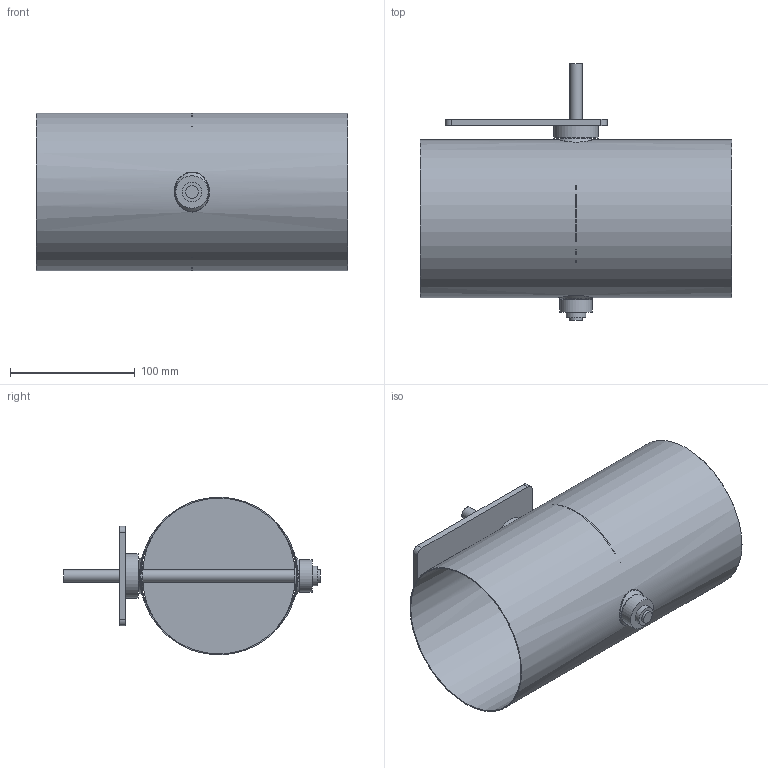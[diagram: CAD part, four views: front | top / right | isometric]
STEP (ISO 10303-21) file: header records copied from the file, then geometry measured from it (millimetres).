
FILE_DESCRIPTION(/* description */ (''),/* implementation_level */ '2;1');
FILE_NAME(/* name */ 'AA122-80B__125_L250_Belimo_Typ_LM.stp',/* time_stamp */ '2017-12-05T13:56:11+01:00',/* author */ (''),/* organization */ (''),/* preprocessor_version */ 'ST-DEVELOPER v11',/* originating_system */ 'SIEMENS UGS NX 6.0',/* authorisation */ '');
FILE_SCHEMA (('CONFIG_CONTROL_DESIGN'));
Length unit declared in the file: millimetre
Products named in the file (1): gars1E3Bhik7
Bounding box: 250 x 206 x 126.6 mm (x, y, z)
Volume: 175969.3 mm3; surface area: 261696.5 mm2
Topology: 8 solids, 8 shells, 66 faces, 142 edges, 98 vertices
Faces by surface type: plane 28, cylinder 26, cone 4, bspline 4, torus 4
Full cylindrical faces by diameter (mm): 4.1 x4, 10 x3, 15 x3, 15.85 x2, 16 x2, 24 x2, 26 x1, 36 x1, 125 x1, 126.6 x1
Entity records: 2224 total; most frequent: CARTESIAN_POINT 871, DIRECTION 270, ORIENTED_EDGE 184, EDGE_LOOP 128, AXIS2_PLACEMENT_3D 123, FACE_BOUND 114, EDGE_CURVE 92, VERTEX_POINT 80
